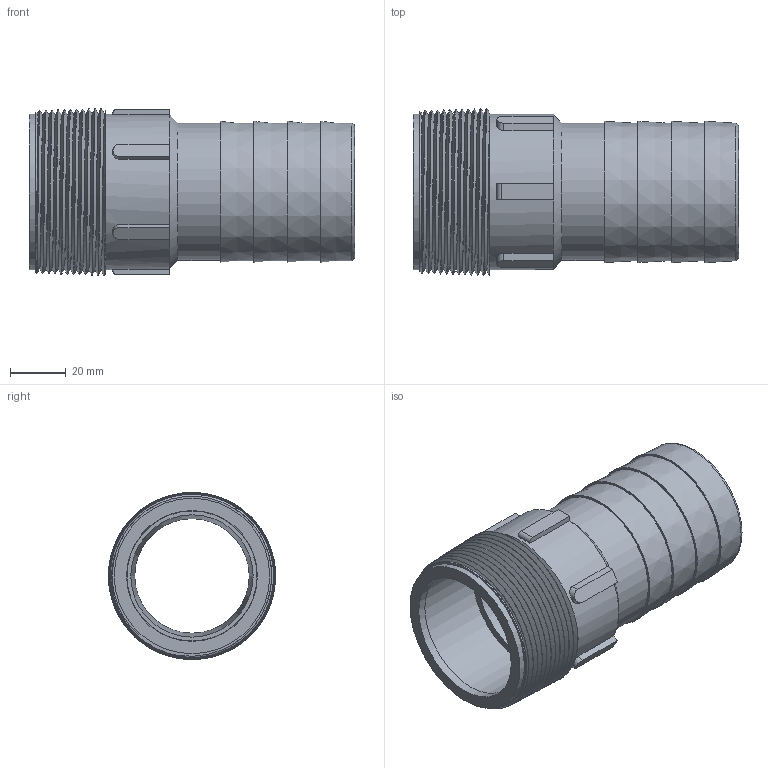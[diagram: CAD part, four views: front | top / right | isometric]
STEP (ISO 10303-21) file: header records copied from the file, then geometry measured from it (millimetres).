
FILE_DESCRIPTION(/* description */ ('Alibre Inc.'),/* implementation_level */ '2;1');
FILE_NAME(/* name */ 'export0',/* time_stamp */ '2016-12-06T14:20:22-05:00',/* author */ (''),/* organization */ (''),/* preprocessor_version */ 'ST-DEVELOPER v14',/* originating_system */ 'Alibre',/* authorisation */ '');
FILE_SCHEMA (('CONFIG_CONTROL_DESIGN'));
Length unit declared in the file: centimetre
Products named in the file (1): ID_1
Bounding box: 116.84 x 60.07 x 60.06 mm (x, y, z)
Volume: 84793.7 mm3; surface area: 42870.2 mm2
Topology: 1 solids, 1 shells, 92 faces, 235 edges, 153 vertices
Faces by surface type: plane 41, cone 31, cylinder 16, bspline 3, torus 1
Full cylindrical faces by diameter (mm): 41.148 x1, 49.276 x1, 49.53 x1, 55.88 x2
Entity records: 25203 total; most frequent: CARTESIAN_POINT 23243, ORIENTED_EDGE 432, DIRECTION 275, EDGE_CURVE 216, VERTEX_POINT 147, EDGE_LOOP 115, FACE_BOUND 115, AXIS2_PLACEMENT_3D 114
